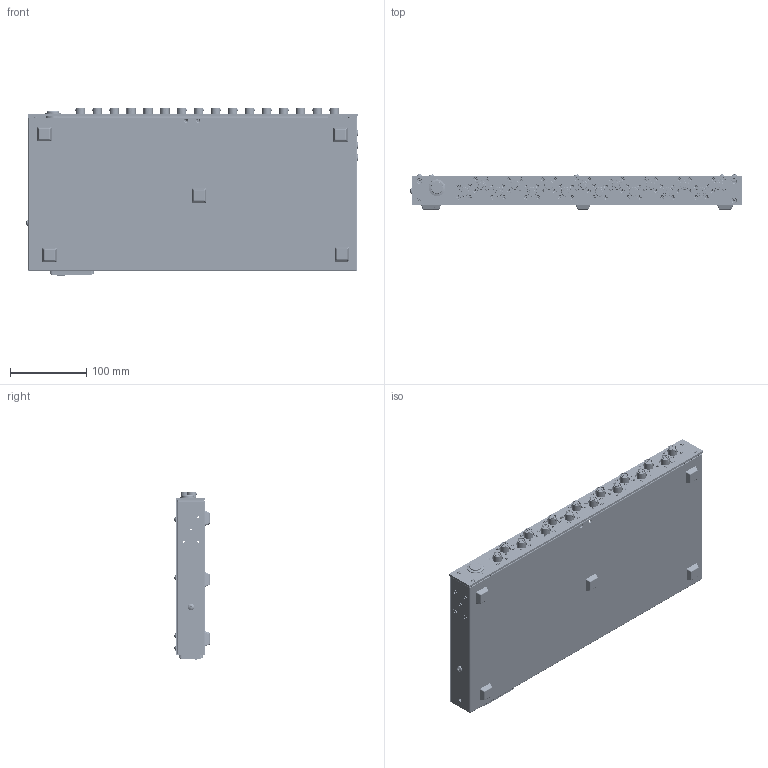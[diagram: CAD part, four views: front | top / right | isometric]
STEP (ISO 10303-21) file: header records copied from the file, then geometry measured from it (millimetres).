
FILE_DESCRIPTION (( 'STEP AP214' ), '1' );
FILE_NAME ('PDM5016 Desktop.STEP', '2024-12-03T20:06:41', ( '' ), ( '' ), 'SwSTEP 2.0', 'SolidWorks 2024', '' );
FILE_SCHEMA (( 'AUTOMOTIVE_DESIGN' ));
Length unit declared in the file: inch
Products named in the file (26): S-213_S-213; RIV NUT_6-32 RIV NUT; FH-632-XX_FH-632-6; 20306_20306-1; 0921_0921-632.250SS; CO-1150_CO-1150; AM-196_AM-196; 20307_20309-1; #8 Pan x .375_#8 Pan x .375; 0920_0920-4X.1875; flush stud_pmi_PEM FHS-440-20 ---N; flat head screw_1_ai_#6 Flat x .375; AM-104_AM-104; FIT 221_FIT 221; 20309-1_20309-1; 20308_20308-1; 156143_156143-1; 0920_0920-8X.375; 20304_20304-1; #4 Flat x .500_#4 Flat x .500; #4 Flat x .375_#4 Flat x .375; BUMPER PAD_XXXXX-1; CO-875; 0933-6PANX250SS_0993-6PANX.250SS; PDM5016 Desktop
Assembly tree (136 placements, depth 3):
  AM-104_AM-104
  FIT 221_FIT 221
  PDM5016 Desktop
    20309-1_20309-1
      20307_20309-1
    156143_156143-1  x16
      CO-875
    #4 Flat x .375_#4 Flat x .375  x62
    flat head screw_1_ai_#6 Flat x .375  x4
    0933-6PANX250SS_0993-6PANX.250SS  x9
    #8 Pan x .375_#8 Pan x .375
    0920_0920-8X.375
    BUMPER PAD_XXXXX-1  x5
    0921_0921-632.250SS  x2
    #4 Flat x .500_#4 Flat x .500  x2
    0920_0920-4X.1875  x2
    20306_20306-1
      20306_20306-1
      FH-632-XX_FH-632-6  x4
      flush stud_pmi_PEM FHS-440-20 ---N  x4
      RIV NUT_6-32 RIV NUT  x14
    S-213_S-213
    20308_20308-1
      AM-196_AM-196
    CO-1150_CO-1150
    20304_20304-1
Bounding box: 435.49 x 46.47 x 220.26 mm (x, y, z)
Volume: 404219.5 mm3; surface area: 537653.6 mm2
Topology: 135 solids, 135 shells, 8651 faces, 22205 edges, 14271 vertices
Faces by surface type: plane 5531, cylinder 2189, cone 481, bspline 237, torus 169, sphere 44
Entity records: 162676 total; most frequent: CARTESIAN_POINT 38300, ORIENTED_EDGE 26300, DIRECTION 24267, EDGE_CURVE 13150, VECTOR 10425, LINE 10425, VERTEX_POINT 8578, AXIS2_PLACEMENT_3D 6921
